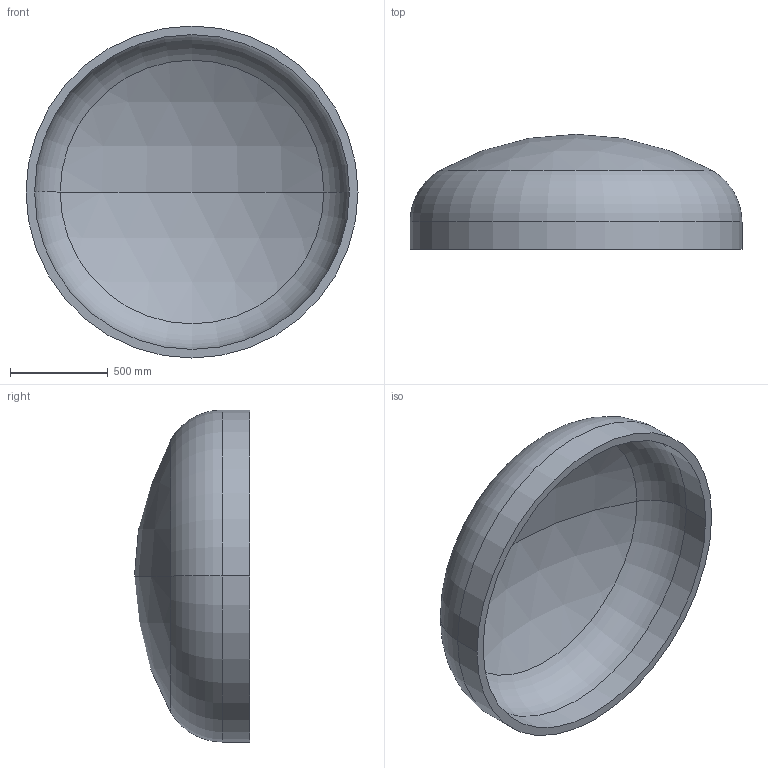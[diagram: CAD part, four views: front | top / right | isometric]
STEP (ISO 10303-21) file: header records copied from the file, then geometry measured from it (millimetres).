
FILE_DESCRIPTION (( 'STEP AP203' ), '1' );
FILE_NAME ('DIN 28013 Korbbogenform_-_Boden DIN 28013 - 1700 x 140 - I - s=44.step', '2016-07-01T11:50:46', ( '' ), ( '' ), 'SwSTEP 2.0', 'SolidWorks 2013', '' );
FILE_SCHEMA (( 'CONFIG_CONTROL_DESIGN' ));
Length unit declared in the file: millimetre
Products named in the file (1): DIN 28013 Korbbogenform_-_Boden DIN 28013 - 1700 x 140 - I - s=44
Bounding box: 1700 x 589.07 x 1700 mm (x, y, z)
Volume: 165569992.1 mm3; surface area: 7758870.3 mm2
Topology: 1 solids, 1 shells, 13 faces, 24 edges, 14 vertices
Faces by surface type: torus 4, cylinder 4, sphere 4, plane 1
Entity records: 407 total; most frequent: DIRECTION 72, CARTESIAN_POINT 52, ORIENTED_EDGE 48, AXIS2_PLACEMENT_3D 34, EDGE_CURVE 24, CIRCLE 20, VERTEX_POINT 14, EDGE_LOOP 14
